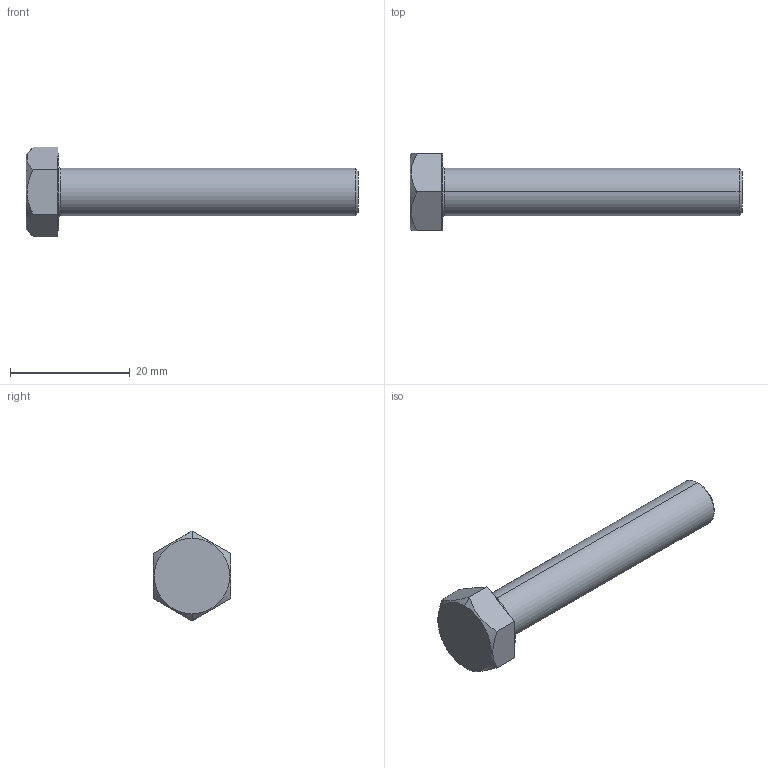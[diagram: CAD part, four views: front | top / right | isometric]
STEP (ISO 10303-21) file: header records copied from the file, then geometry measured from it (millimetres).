
FILE_DESCRIPTION (( 'STEP AP203' ), '1' );
FILE_NAME ('LGN-TD-M8x50.STEP', '2026-08-14T04:25:55', ( '' ), ( '' ), 'SwSTEP 2.0', 'SolidWorks 2020', '' );
FILE_SCHEMA (( 'CONFIG_CONTROL_DESIGN' ));
Length unit declared in the file: millimetre
Products named in the file (1): LGN-TD-M8x50
Bounding box: 55.5 x 13 x 15.01 mm (x, y, z)
Volume: 3305.2 mm3; surface area: 1771 mm2
Topology: 1 solids, 1 shells, 25 faces, 54 edges, 32 vertices
Faces by surface type: plane 15, cone 4, cylinder 4, torus 2
Entity records: 809 total; most frequent: CARTESIAN_POINT 182, DIRECTION 122, ORIENTED_EDGE 108, EDGE_CURVE 54, AXIS2_PLACEMENT_3D 48, VERTEX_POINT 32, EDGE_LOOP 26, LINE 26
